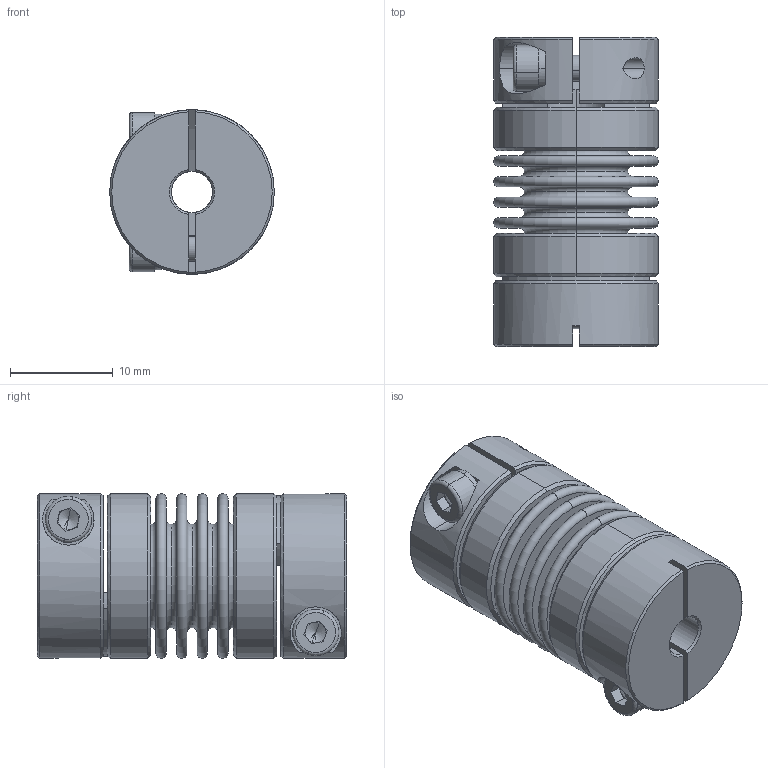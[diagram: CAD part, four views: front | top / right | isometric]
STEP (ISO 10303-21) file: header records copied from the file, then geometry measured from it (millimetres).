
FILE_DESCRIPTION (( 'STEP AP203' ), '1' );
FILE_NAME ('LB-B-D16L30-4-6.35.STEP', '2021-11-04T01:12:23', ( '' ), ( '' ), 'SwSTEP 2.0', 'SolidWorks 2018', '' );
FILE_SCHEMA (( 'CONFIG_CONTROL_DESIGN' ));
Length unit declared in the file: millimetre
Products named in the file (2): 零件1^LB-B-D16L30 波纹管联轴器-组装体; LB-B-D16L30-4-6.35
Assembly tree (1 placements, depth 2):
  LB-B-D16L30-4-6.35
    零件1^LB-B-D16L30 波纹管联轴器-组装体
Bounding box: 16 x 30.04 x 16 mm (x, y, z)
Volume: 3234.2 mm3; surface area: 6458.3 mm2
Topology: 1 solids, 1 shells, 254 faces, 586 edges, 362 vertices
Faces by surface type: plane 86, torus 68, cylinder 66, cone 34
Entity records: 7660 total; most frequent: CARTESIAN_POINT 1472, DIRECTION 1420, ORIENTED_EDGE 1164, AXIS2_PLACEMENT_3D 622, EDGE_CURVE 582, CIRCLE 364, VERTEX_POINT 362, EDGE_LOOP 296
